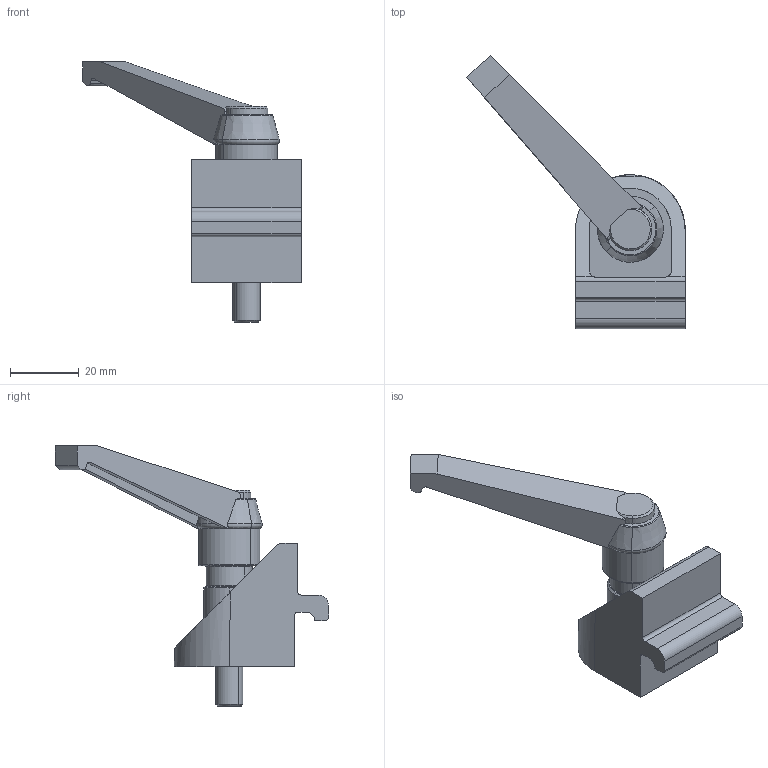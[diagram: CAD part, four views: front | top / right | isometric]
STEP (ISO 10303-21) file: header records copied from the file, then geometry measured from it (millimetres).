
FILE_DESCRIPTION (( 'STEP AP203' ), '1' );
FILE_NAME ('0108KWKH.STEP', '2024-09-04T09:10:34', ( 'Windows-Benutzer' ), ( '' ), 'SwSTEP 2.0', 'SolidWorks 2024', '' );
FILE_SCHEMA (( 'CONFIG_CONTROL_DESIGN' ));
Length unit declared in the file: millimetre
Products named in the file (4): 093WKF401N08A_b2_Standard<Wie bearbeitet>; Geotech 0108KW Klemmwinkel 8_Standard<Wie bearbeitet>; 0108KWKH; 093WKF401N08A_b3_Standard<Wie bearbeitet>
Assembly tree (3 placements, depth 2):
  0108KWKH
    093WKF401N08A_b2_Standard<Wie bearbeitet>
    093WKF401N08A_b3_Standard<Wie bearbeitet>
    Geotech 0108KW Klemmwinkel 8_Standard<Wie bearbeitet>
Bounding box: 63.75 x 79.73 x 76 mm (x, y, z)
Volume: 29270.4 mm3; surface area: 14874.8 mm2
Topology: 3 solids, 3 shells, 118 faces, 304 edges, 194 vertices
Faces by surface type: plane 53, cylinder 36, cone 17, torus 12
Entity records: 4073 total; most frequent: CARTESIAN_POINT 822, ORIENTED_EDGE 608, DIRECTION 597, EDGE_CURVE 304, AXIS2_PLACEMENT_3D 217, VERTEX_POINT 194, LINE 163, VECTOR 163
